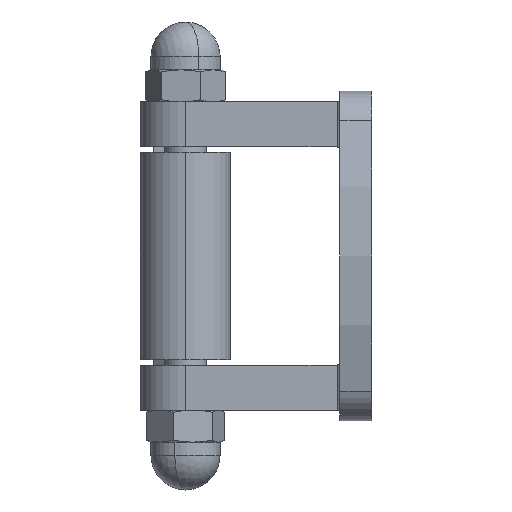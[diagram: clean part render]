
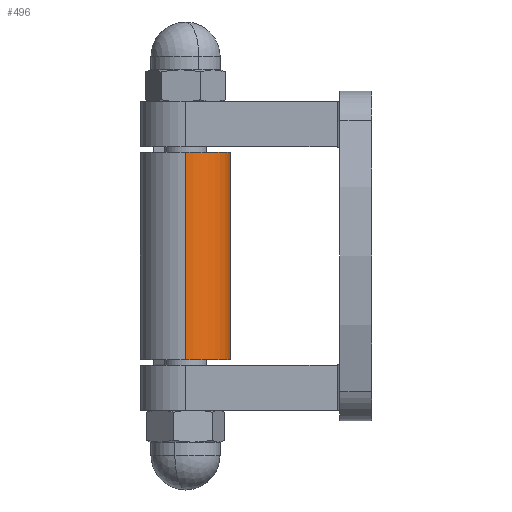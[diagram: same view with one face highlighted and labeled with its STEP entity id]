
A CAD part, left-side view. The second image highlights one B-rep face of the part: STEP entity #496.
In plain terms, the highlighted cylindrical face has radius 8.5 mm (diameter 17 mm), a partial arc.
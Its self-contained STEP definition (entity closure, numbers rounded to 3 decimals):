
#321 = CARTESIAN_POINT ( 'NONE',  ( -131., 0., 19.5 ) ) ;
#404 = VERTEX_POINT ( 'NONE', #5224 ) ;
#496 = ADVANCED_FACE ( 'NONE', ( #6507 ), #3853, .T. ) ;
#506 = VERTEX_POINT ( 'NONE', #5610 ) ;
#588 = LINE ( 'NONE', #3893, #4121 ) ;
#615 = VECTOR ( 'NONE', #2929, 1000. ) ;
#674 = ORIENTED_EDGE ( 'NONE', *, *, #2610, .T. ) ;
#1022 = DIRECTION ( 'NONE',  ( 0., 0., 1. ) ) ;
#1048 = AXIS2_PLACEMENT_3D ( 'NONE', #4762, #5339, #4389 ) ;
#1094 = ORIENTED_EDGE ( 'NONE', *, *, #4036, .F. ) ;
#1151 = CARTESIAN_POINT ( 'NONE',  ( -131., 0., 19.5 ) ) ;
#1194 = CIRCLE ( 'NONE', #5093, 8.5 ) ;
#1532 = DIRECTION ( 'NONE',  ( 0., 0., 1. ) ) ;
#1728 = CARTESIAN_POINT ( 'NONE',  ( -131., 0., 17.5 ) ) ;
#1838 = LINE ( 'NONE', #321, #615 ) ;
#1853 = ORIENTED_EDGE ( 'NONE', *, *, #6400, .T. ) ;
#1858 = ORIENTED_EDGE ( 'NONE', *, *, #1963, .F. ) ;
#1963 = EDGE_CURVE ( 'NONE', #6319, #404, #4416, .T. ) ;
#2192 = VERTEX_POINT ( 'NONE', #3931 ) ;
#2213 = CARTESIAN_POINT ( 'NONE',  ( -139.5, 0., 19.5 ) ) ;
#2403 = DIRECTION ( 'NONE',  ( 0., 0., 1. ) ) ;
#2436 = EDGE_CURVE ( 'NONE', #404, #5304, #5634, .T. ) ;
#2510 = CARTESIAN_POINT ( 'NONE',  ( -131., 0., 0. ) ) ;
#2561 = DIRECTION ( 'NONE',  ( 1., 0., 0. ) ) ;
#2597 = VERTEX_POINT ( 'NONE', #2884 ) ;
#2610 = EDGE_CURVE ( 'NONE', #4493, #5304, #1838, .T. ) ;
#2707 = CARTESIAN_POINT ( 'NONE',  ( -148., 0., 19.5 ) ) ;
#2752 = DIRECTION ( 'NONE',  ( 0., 0., -1. ) ) ;
#2884 = CARTESIAN_POINT ( 'NONE',  ( -131., 0., -19.5 ) ) ;
#2929 = DIRECTION ( 'NONE',  ( 0., 0., 1. ) ) ;
#3149 = ORIENTED_EDGE ( 'NONE', *, *, #2436, .F. ) ;
#3221 = AXIS2_PLACEMENT_3D ( 'NONE', #2213, #2403, #2561 ) ;
#3238 = DIRECTION ( 'NONE',  ( 0., 0., -1. ) ) ;
#3348 = EDGE_CURVE ( 'NONE', #506, #2597, #4208, .T. ) ;
#3853 = CYLINDRICAL_SURFACE ( 'NONE', #1048, 8.5 ) ;
#3893 = CARTESIAN_POINT ( 'NONE',  ( -131., 0., 19.5 ) ) ;
#3931 = CARTESIAN_POINT ( 'NONE',  ( -148., 0., -19.5 ) ) ;
#4036 = EDGE_CURVE ( 'NONE', #4493, #5964, #6423, .T. ) ;
#4121 = VECTOR ( 'NONE', #1532, 1000. ) ;
#4180 = CARTESIAN_POINT ( 'NONE',  ( -139.5, 0., -19.5 ) ) ;
#4208 = LINE ( 'NONE', #6020, #5298 ) ;
#4228 = VECTOR ( 'NONE', #4304, 1000. ) ;
#4304 = DIRECTION ( 'NONE',  ( 0., 0., -1. ) ) ;
#4389 = DIRECTION ( 'NONE',  ( -1., 0., 0. ) ) ;
#4416 = CIRCLE ( 'NONE', #3221, 8.5 ) ;
#4493 = VERTEX_POINT ( 'NONE', #6221 ) ;
#4579 = LINE ( 'NONE', #2707, #5637 ) ;
#4603 = DIRECTION ( 'NONE',  ( 0., 0., -1. ) ) ;
#4663 = CARTESIAN_POINT ( 'NONE',  ( -148., 0., 19.5 ) ) ;
#4724 = DIRECTION ( 'NONE',  ( 1., 0., 0. ) ) ;
#4762 = CARTESIAN_POINT ( 'NONE',  ( -139.5, 0., 19.5 ) ) ;
#4849 = EDGE_LOOP ( 'NONE', ( #3149, #1858, #5010, #1853, #6163, #6438, #1094, #674 ) ) ;
#4861 = CARTESIAN_POINT ( 'NONE',  ( -131., 0., -13.5 ) ) ;
#5010 = ORIENTED_EDGE ( 'NONE', *, *, #6546, .T. ) ;
#5093 = AXIS2_PLACEMENT_3D ( 'NONE', #4180, #1022, #4724 ) ;
#5123 = EDGE_CURVE ( 'NONE', #506, #5964, #588, .T. ) ;
#5224 = CARTESIAN_POINT ( 'NONE',  ( -131., 0., 19.5 ) ) ;
#5298 = VECTOR ( 'NONE', #2752, 1000. ) ;
#5304 = VERTEX_POINT ( 'NONE', #1728 ) ;
#5339 = DIRECTION ( 'NONE',  ( 0., 0., -1. ) ) ;
#5610 = CARTESIAN_POINT ( 'NONE',  ( -131., 0., -17.5 ) ) ;
#5634 = LINE ( 'NONE', #1151, #4228 ) ;
#5637 = VECTOR ( 'NONE', #3238, 1000. ) ;
#5964 = VERTEX_POINT ( 'NONE', #4861 ) ;
#6020 = CARTESIAN_POINT ( 'NONE',  ( -131., 0., 19.5 ) ) ;
#6163 = ORIENTED_EDGE ( 'NONE', *, *, #3348, .F. ) ;
#6221 = CARTESIAN_POINT ( 'NONE',  ( -131., 0., 13.5 ) ) ;
#6261 = VECTOR ( 'NONE', #4603, 1000. ) ;
#6319 = VERTEX_POINT ( 'NONE', #4663 ) ;
#6400 = EDGE_CURVE ( 'NONE', #2192, #2597, #1194, .T. ) ;
#6423 = LINE ( 'NONE', #2510, #6261 ) ;
#6438 = ORIENTED_EDGE ( 'NONE', *, *, #5123, .T. ) ;
#6507 = FACE_OUTER_BOUND ( 'NONE', #4849, .T. ) ;
#6546 = EDGE_CURVE ( 'NONE', #6319, #2192, #4579, .T. ) ;
